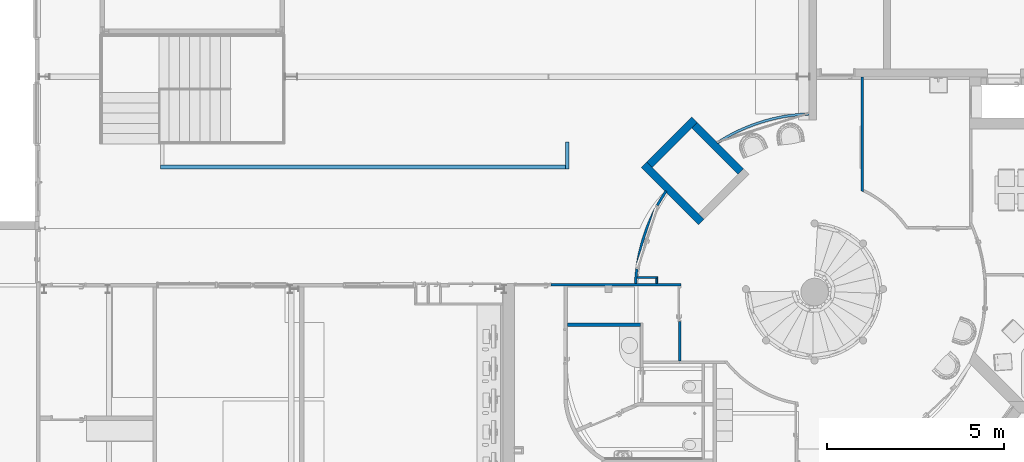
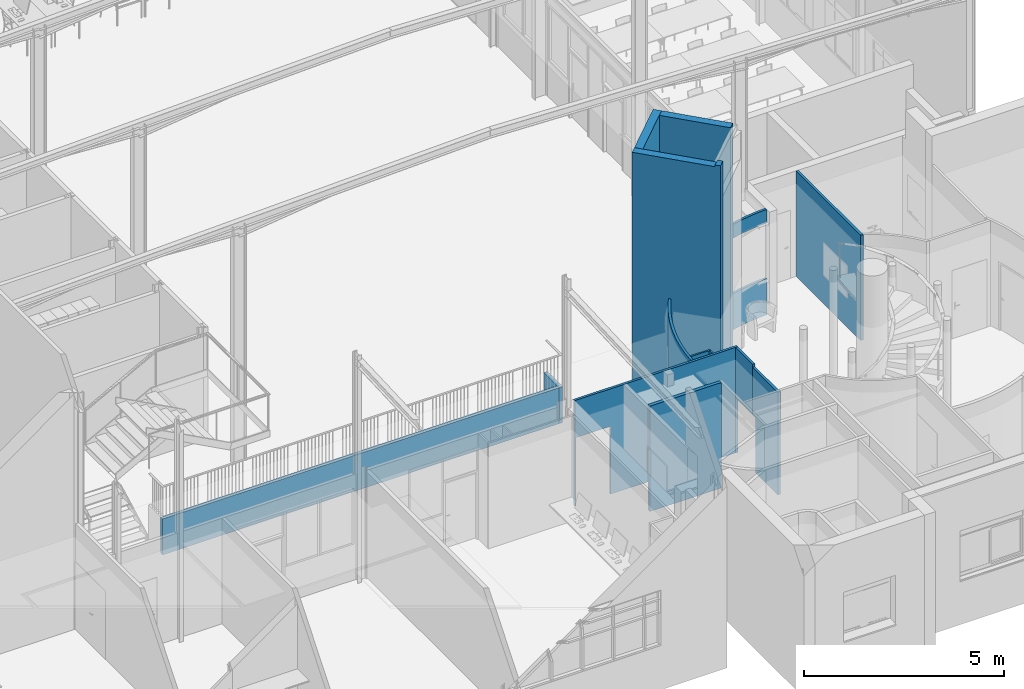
# One storey, part 47 of 137: 14 walls, 5 openings.
"""IFC2X3 building model written with IfcOpenShell, lengths in centimetres."""

from ifc_helpers import new_model, entity, si_unit, converted_unit, derived_unit, direction, frame, frame_2d, origin, place, context, subcontext, project, spatial, polyline, circle_curve, parameter, trimmed, segment, composite_curve, rectangle, outline, extrude, clip, bounded_halfspace, material, layer, layer_set, layer_usage, type_object, element, save


model = new_model("IFC2X3")

# Units and contexts
model_context = context("Model", 3, precision=0.001, world=origin(), true_north=direction((6.12303176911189e-17, 1.0)))
body_context = subcontext(model_context, "Body", "Model", "MODEL_VIEW")
ifc_project = project(units=[si_unit("LENGTHUNIT", "METRE", prefix="CENTI"), si_unit("AREAUNIT", "SQUARE_METRE"), si_unit("VOLUMEUNIT", "CUBIC_METRE"), converted_unit("PLANEANGLEUNIT", "DEGREE", entity("IfcRatioMeasure", 0.0174532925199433), si_unit("PLANEANGLEUNIT", "RADIAN"), dimensions=[0, 0, 0, 0, 0, 0, 0]), si_unit("MASSUNIT", "GRAM", prefix="KILO"), si_unit("TIMEUNIT", "SECOND"), si_unit("FREQUENCYUNIT", "HERTZ"), si_unit("THERMODYNAMICTEMPERATUREUNIT", "DEGREE_CELSIUS"), derived_unit("THERMALTRANSMITTANCEUNIT", [(si_unit("MASSUNIT", "GRAM", prefix="KILO"), 1), (si_unit("THERMODYNAMICTEMPERATUREUNIT", "KELVIN"), -1), (si_unit("TIMEUNIT", "SECOND"), -3)]), derived_unit("VOLUMETRICFLOWRATEUNIT", [(si_unit("LENGTHUNIT", "METRE"), 3), (si_unit("TIMEUNIT", "SECOND"), -1)]), si_unit("ELECTRICCURRENTUNIT", "AMPERE"), si_unit("ELECTRICVOLTAGEUNIT", "VOLT"), si_unit("POWERUNIT", "WATT"), si_unit("FORCEUNIT", "NEWTON", prefix="KILO"), si_unit("ILLUMINANCEUNIT", "LUX"), si_unit("LUMINOUSFLUXUNIT", "LUMEN"), si_unit("LUMINOUSINTENSITYUNIT", "CANDELA"), derived_unit("USERDEFINED", [(si_unit("MASSUNIT", "GRAM", prefix="KILO"), -1), (si_unit("LENGTHUNIT", "METRE"), -2), (si_unit("TIMEUNIT", "SECOND"), 3), (si_unit("LUMINOUSFLUXUNIT", "LUMEN"), 1)]), derived_unit("LINEARVELOCITYUNIT", [(si_unit("LENGTHUNIT", "METRE"), 1), (si_unit("TIMEUNIT", "SECOND"), -1)]), si_unit("PRESSUREUNIT", "PASCAL"), derived_unit("USERDEFINED", [(si_unit("LENGTHUNIT", "METRE"), -2), (si_unit("MASSUNIT", "GRAM", prefix="KILO"), 1), (si_unit("TIMEUNIT", "SECOND"), -2)])], contexts=[model_context])

# Site, building, storey
site_placement = place(None, frame((8.62739174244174, -249.285249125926, 0.0)))
site = spatial("IfcSite", under=ifc_project, at=site_placement, Name="Default", CompositionType="ELEMENT")
building_placement = place(site_placement, origin())
building = spatial("IfcBuilding", under=site, at=building_placement, CompositionType="ELEMENT")
storey_placement = place(building_placement, origin())
storey = spatial("IfcBuildingStorey", under=building, at=storey_placement, Name="RDC", CompositionType="ELEMENT", Elevation=-8.82465566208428e-11)

# Wall
ifc_material_1 = material(Name="Plâtre EXISTANT")
ifc_layer_1 = layer(ifc_material_1, 7.0)
ifc_layer_set_1 = layer_set([ifc_layer_1], Name="Mur de base:PLA EXISTANT 7")
ifc_layer_usage_1 = layer_usage(ifc_layer_set_1, "AXIS2", "NEGATIVE", 3.5)
wall_type_1 = type_object("IfcWallType", Name="Mur de base:PLA EXISTANT 7", PredefinedType="STANDARD", material=ifc_layer_set_1)
wall_1_placement = place(storey_placement, frame((3178.40482780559, 1361.98020807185, 0.0), z_axis=(0.0, 0.0, 1.0), x_axis=(0.0, -1.0, 0.0)))
element("IfcWallStandardCase", 1, at=wall_1_placement, inside=storey, type_object=wall_type_1, material=ifc_layer_usage_1, Name="Mur de base:PLA EXISTANT 7", ObjectType="Mur de base:PLA EXISTANT 7", context=body_context, shape_type="Clipping", body=[
    clip(extrude(outline(composite_curve([segment(trimmed(circle_curve(frame_2d((608.369132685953, -134.646610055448), x_axis=(0.0, 1.0)), 315.00000000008), [parameter(63.9879179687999)], [parameter(65.3963669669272)], True, "PARAMETER"), False, "CONTINUOUS"), segment(polyline([(325.27813295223, 3.50000000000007), (317.509176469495, 3.50000000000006)]), True, "CONTINUOUS"), segment(polyline([(317.509176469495, 3.50000000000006), (0.0, 3.50000000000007)]), True, "CONTINUOUS"), segment(polyline([(0.0, 3.50000000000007), (0.0, -3.50000000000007)]), True, "CONTINUOUS"), segment(polyline([(0.0, -3.50000000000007), (321.968073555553, -3.50000000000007)]), True, "CONTINUOUS")], self_intersect=False)), origin(), (0.0, 0.0, 1.0), 322.000000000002), bounded_halfspace(frame((0.0, -3.50000000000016, 322.0), z_axis=(0.0, 0.0, -1.0), x_axis=(0.0, -1.0, 0.0)), True, frame((0.0, -3.50000000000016, 322.0)), polyline([(0.0, 0.0), (15.9997070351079, 0.0), (15.9997070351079, 7.0), (0.0, 7.0), (0.0, 0.0)]))),
])

# Wall, opening
ifc_layer_usage_2 = layer_usage(ifc_layer_set_1, "AXIS2", "POSITIVE", -3.5)
wall_2_placement = place(storey_placement, frame((2537.84354579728, 777.851436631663, 0.0)))
wall_2 = element("IfcWallStandardCase", 2, at=wall_2_placement, inside=storey, type_object=wall_type_1, material=ifc_layer_usage_2, Name="Mur de base:PLA EXISTANT 7", ObjectType="Mur de base:PLA EXISTANT 7", context=body_context, shape_type="SweptSolid", body=[
    extrude(outline(composite_curve([segment(trimmed(circle_curve(frame_2d((503.04621240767, -21.3719017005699), x_axis=(1.0, 0.0)), 507.000000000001), [parameter(145.861090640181)], [parameter(177.567253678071)], True, "PARAMETER"), True, "CONTINUOUS"), segment(polyline([(-3.49684556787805, 0.148563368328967), (3.50955751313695, 0.148563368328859)]), True, "CONTINUOUS"), segment(polyline([(3.50955751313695, 0.14856336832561), (3.86055669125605, 7.15319474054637)]), True, "CONTINUOUS"), segment(polyline([(3.86055669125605, 7.15319474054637), (4.30984132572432, 14.1523090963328)]), True, "CONTINUOUS"), segment(polyline([(4.30984132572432, 14.1523090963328), (4.49402175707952, 16.6506336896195)]), True, "CONTINUOUS"), segment(polyline([(4.49402175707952, 16.6506336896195), (4.6910426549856, 19.1509654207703)]), True, "CONTINUOUS"), segment(polyline([(4.6910426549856, 19.1509654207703), (7.13166242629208, 42.4149238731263)]), True, "CONTINUOUS"), segment(polyline([(7.13166242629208, 42.4149238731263), (10.6580216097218, 65.5410982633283)]), True, "CONTINUOUS"), segment(polyline([(10.6580216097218, 65.5410982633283), (15.2622207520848, 88.4769830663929)]), True, "CONTINUOUS"), segment(polyline([(15.2622207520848, 88.4769830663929), (20.9341817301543, 111.17239231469)]), True, "CONTINUOUS"), segment(polyline([(20.9341817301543, 111.17239231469), (27.6614928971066, 133.577665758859)]), True, "CONTINUOUS"), segment(polyline([(27.6614928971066, 133.577665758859), (35.4294361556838, 155.643777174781)]), True, "CONTINUOUS"), segment(polyline([(35.4294361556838, 155.643777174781), (44.2210190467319, 177.322441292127)]), True, "CONTINUOUS"), segment(polyline([(44.2210190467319, 177.322441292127), (54.0170117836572, 198.566219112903)]), True, "CONTINUOUS"), segment(polyline([(54.0170117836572, 198.566219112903), (64.795989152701, 219.328621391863)]), True, "CONTINUOUS"), segment(polyline([(64.795989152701, 219.328621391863), (76.5343406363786, 239.564150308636)]), True, "CONTINUOUS"), segment(polyline([(76.5343406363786, 239.564150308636), (89.2065045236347, 259.228697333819)]), True, "CONTINUOUS"), segment(polyline([(89.2065045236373, 259.228697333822), (83.4127486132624, 263.157105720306)]), True, "CONTINUOUS")], self_intersect=False)), origin(), (0.0, 0.0, 1.0), 322.000000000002),
])
opening_1_placement = place(wall_2_placement, frame((41.8345070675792, 28.4686335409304, 0.0)))
element("IfcOpeningElement", 3, at=opening_1_placement, cuts=wall_2, Name="Double(R)_bois_Existant_mu:183 x 204 cm:1", ObjectType="Opening", context=body_context, shape_type="SweptSolid", body=[
    extrude(rectangle(XDim=206.999999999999, YDim=189.0, at=frame_2d((103.499999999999, 94.5), x_axis=(1.0, 0.0))), frame((0.0, 0.0, 0.0), z_axis=(-0.951478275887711, 0.307715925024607, 0.0), x_axis=(0.0, 0.0, 1.0)), (0.0, 0.0, 1.0), 45.5719508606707),
])

ifc_layer_usage_3 = layer_usage(ifc_layer_set_1, "AXIS2", "NEGATIVE", 3.5)
wall_3_placement = place(storey_placement, frame((2194.90482780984, 774.499999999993, 0.0)))
wall_3 = element("IfcWallStandardCase", 4, at=wall_3_placement, inside=storey, type_object=wall_type_1, material=ifc_layer_usage_3, Name="Mur de base:PLA EXISTANT 7", ObjectType="Mur de base:PLA EXISTANT 7", context=body_context, shape_type="SweptSolid", body=[
    extrude(rectangle(XDim=470.999999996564, YDim=6.99999999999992, at=frame_2d((235.499999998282, 0.0), x_axis=(-1.0, 0.0))), origin(), (0.0, 0.0, 1.0), 322.000000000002),
])
opening_2_placement = place(wall_3_placement, frame((103.499999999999, 3.49999999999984, 0.0)))
element("IfcOpeningElement", 5, at=opening_2_placement, cuts=wall_3, Name="Simple(R)_bois_mu:93 x 204 cm:1", ObjectType="Opening", context=body_context, shape_type="SweptSolid", body=[
    extrude(rectangle(XDim=207.499999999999, YDim=99.9999999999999, at=frame_2d((103.749999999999, 50.0), x_axis=(1.0, 0.0))), frame((0.0, 0.0, 0.0), z_axis=(0.0, -1.0, 0.0), x_axis=(0.0, 0.0, 1.0)), (0.0, 0.0, 1.0), 7.0),
])

ifc_layer_usage_4 = layer_usage(ifc_layer_set_1, "AXIS2", "NEGATIVE", 3.5)
wall_4_placement = place(storey_placement, frame((2662.40482780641, 771.0, 0.0), z_axis=(0.0, 0.0, 1.0), x_axis=(0.0, -1.0, 0.0)))
wall_4 = element("IfcWallStandardCase", 6, at=wall_4_placement, inside=storey, type_object=wall_type_1, material=ifc_layer_usage_4, Name="Mur de base:PLA EXISTANT 7", ObjectType="Mur de base:PLA EXISTANT 7", context=body_context, shape_type="Clipping", body=[
    clip(extrude(rectangle(XDim=85.0197919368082, YDim=7.00000000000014, at=frame_2d((42.5098959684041, 0.0), x_axis=(-1.0, 0.0))), origin(), (0.0, 0.0, 1.0), 322.000000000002), bounded_halfspace(frame((0.0, -3.50000000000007, 322.0), z_axis=(0.0, 0.0, -1.0), x_axis=(-1.0, 0.0, 0.0)), True, frame((0.0, -3.50000000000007, 322.0)), polyline([(0.0, 0.0), (85.0197919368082, 0.0), (85.0197919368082, 7.0), (0.0, 7.0), (0.0, 0.0)]))),
])
opening_3_placement = place(wall_4_placement, frame((101.0, 3.5, 0.0)))
element("IfcOpeningElement", 7, at=opening_3_placement, cuts=wall_4, Name="Simple(R)_bois_mu:93 x 165 cm:1", ObjectType="Opening", context=body_context, shape_type="SweptSolid", body=[
    extrude(rectangle(XDim=168.5, YDim=99.9999999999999, at=frame_2d((84.25, 50.0), x_axis=(1.0, 0.0))), frame((0.0, 0.0, 0.0), z_axis=(0.0, -1.0, 0.0), x_axis=(0.0, 0.0, 1.0)), (0.0, 0.0, 1.0), 7.0),
])

ifc_layer_usage_5 = layer_usage(ifc_layer_set_1, "AXIS2", "POSITIVE", -3.5)
wall_5_placement = place(storey_placement, frame((2768.54701546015, 1175.24011154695, 0.0)))
wall_5 = element("IfcWallStandardCase", 8, at=wall_5_placement, inside=storey, type_object=wall_type_1, material=ifc_layer_usage_5, Name="Mur de base:PLA EXISTANT 7", ObjectType="Mur de base:PLA EXISTANT 7", context=body_context, shape_type="Clipping", body=[
    clip(extrude(outline(composite_curve([segment(polyline([(-1.91308680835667, 2.93088704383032), (1.91308680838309, -2.93088704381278)]), True, "CONTINUOUS"), segment(trimmed(circle_curve(frame_2d((275.211202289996, -421.629036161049), x_axis=(1.0, 0.0)), 500.000000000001), [parameter(91.8169691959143)], [parameter(123.133812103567)], True, "PARAMETER"), False, "CONTINUOUS"), segment(polyline([(259.35781234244, 78.1195706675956), (259.35781234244, 85.1230432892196)]), True, "CONTINUOUS"), segment(trimmed(circle_curve(frame_2d((275.211202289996, -421.629036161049), x_axis=(1.0, 0.0)), 507.000000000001), [parameter(91.7918745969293)], [parameter(123.133812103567)], True, "PARAMETER"), True, "CONTINUOUS")], self_intersect=False)), origin(), (0.0, 0.0, 1.0), 322.000000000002), bounded_halfspace(frame((3.47701850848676, -1.9142123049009, 322.0), z_axis=(0.0, 0.0, -1.0), x_axis=(-1.0, 0.0, 0.0)), True, frame((3.47701850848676, -1.9142123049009, 322.0)), composite_curve([segment(trimmed(circle_curve(frame_2d((8282.45792166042, -12792.9078311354), x_axis=(1.0, 0.0)), 500.000000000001), [parameter(92.7165790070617)], [parameter(122.920059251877)], True, "PARAMETER"), False, "CONTINUOUS"), segment(polyline([(7560.15071853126, 2429.96549502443), (7560.15071857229, 2643.56221852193)]), True, "CONTINUOUS"), segment(trimmed(circle_curve(frame_2d((8282.45792166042, -12792.9078311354), x_axis=(1.0, 0.0)), 507.000000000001), [parameter(92.6790444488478)], [parameter(123.089306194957)], True, "PARAMETER"), True, "CONTINUOUS"), segment(polyline([(-154.235943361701, 154.235943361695), (0.0, 0.0)]), True, "CONTINUOUS")], self_intersect=False))),
])
opening_4_placement = place(wall_5_placement, origin())
element("IfcOpeningElement", 9, at=opening_4_placement, cuts=wall_5, Name="Mur de base:PLA EXISTANT 7", ObjectType="Opening", context=body_context, shape_type="SweptSolid", body=[
    extrude(outline(composite_curve([segment(polyline([(-55.4473061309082, -130.899588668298), (-17.9673061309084, -130.899588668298)]), True, "CONTINUOUS"), segment(trimmed(circle_curve(frame_2d((466.792693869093, -130.899588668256), x_axis=(0.546596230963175, 0.837396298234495)), 484.760000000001), [parameter(91.8043346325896)], [parameter(123.133812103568)], True, "PARAMETER"), False, "CONTINUOUS"), segment(polyline([(52.7148536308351, 121.155563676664), (20.6997586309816, 140.643613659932)]), True, "CONTINUOUS"), segment(trimmed(circle_curve(frame_2d((466.792693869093, -130.899588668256), x_axis=(0.546596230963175, 0.837396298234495)), 522.240000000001), [parameter(91.8043346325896)], [parameter(123.133812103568)], True, "PARAMETER"), True, "CONTINUOUS")], self_intersect=False)), frame((129.678906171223, 40.8106595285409, 110.0), z_axis=(0.0, 0.0, 1.0), x_axis=(0.54659623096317, -0.837396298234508, 0.0)), (0.0, 0.0, 1.0), 170.0),
])

# Walls
ifc_material_2 = material(Name="Plâtre")
ifc_layer_2 = layer(ifc_material_2, 2.0)
ifc_material_3 = material(Name="Maçonnerie")
ifc_layer_3 = layer(ifc_material_3, 20.0)
ifc_layer_set_2 = layer_set([ifc_layer_2, ifc_layer_3], Name="Mur de base:PLA 2 + PAR 20")
ifc_layer_usage_6 = layer_usage(ifc_layer_set_2, "AXIS2", "NEGATIVE", 11.0)
wall_type_2 = type_object("IfcWallType", Name="Mur de base:PLA 2 + PAR 20", PredefinedType="STANDARD", material=ifc_layer_set_2)
wall_6_placement = place(storey_placement, frame((2723.4210995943, 951.738662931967, 0.0), z_axis=(0.0, 0.0, 1.0), x_axis=(-0.707106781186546, 0.707106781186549, 0.0)))
element("IfcWallStandardCase", 10, at=wall_6_placement, inside=storey, type_object=wall_type_2, material=ifc_layer_usage_6, Name="Mur de base:PLA 2 + PAR 20", ObjectType="Mur de base:PLA 2 + PAR 20", context=body_context, shape_type="Clipping", body=[
    clip(extrude(rectangle(XDim=229.000000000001, YDim=21.9999999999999, at=frame_2d((114.500000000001, 1.94511073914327e-13), x_axis=(-1.0, 0.0))), origin(), (0.0, 0.0, 1.0), 751.919804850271), bounded_halfspace(frame((14.2782119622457, -11.0, 746.074501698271), z_axis=(-0.0246776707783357, -0.0246776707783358, 0.999390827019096), x_axis=(0.707106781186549, -0.707106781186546, 0.0)), False, frame((14.2782119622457, -11.0, 746.074501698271)), polyline([(0.0, 0.0), (192.721788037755, 0.0), (214.721788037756, 0.0), (214.721788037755, 22.0), (-0.202626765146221, 22.0), (0.28285059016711, 20.7352882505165), (0.0, 0.0)]))),
])
ifc_layer_usage_7 = layer_usage(ifc_layer_set_2, "AXIS2", "NEGATIVE", 11.0)
wall_7_placement = place(storey_placement, frame((2577.04999588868, 1113.66611582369, 0.0), z_axis=(0.0, 0.0, 1.0), x_axis=(0.707106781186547, 0.707106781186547, 0.0)))
element("IfcWallStandardCase", 11, at=wall_7_placement, inside=storey, type_object=wall_type_2, material=ifc_layer_usage_7, Name="Mur de base:PLA 2 + PAR 20", ObjectType="Mur de base:PLA 2 + PAR 20", context=body_context, shape_type="Clipping", body=[
    clip(extrude(rectangle(XDim=180.000000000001, YDim=22.0000000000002, at=frame_2d((90.0000000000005, 7.72715225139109e-14), x_axis=(-1.0, 0.0))), origin(), (0.0, 0.0, 1.0), 751.37656516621), bounded_halfspace(frame((0.0, -11.0, 750.833325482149), z_axis=(0.0246776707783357, -0.0246776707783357, 0.999390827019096), x_axis=(0.707106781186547, 0.707106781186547, 0.0)), False, frame((0.0, -11.0, 750.833325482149)), polyline([(0.0, 0.0), (158.0, 0.0), (180.0, 0.0), (180.0, 22.0), (0.0, 22.0), (0.0, 0.0)]))),
])
ifc_layer_usage_8 = layer_usage(ifc_layer_set_2, "AXIS2", "NEGATIVE", 11.0)
wall_8_placement = place(storey_placement, frame((2704.32921650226, 1225.38898725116, 0.0), z_axis=(0.0, 0.0, 1.0), x_axis=(0.707106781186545, -0.70710678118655, 0.0)))
element("IfcWallStandardCase", 12, at=wall_8_placement, inside=storey, type_object=wall_type_2, material=ifc_layer_usage_8, Name="Mur de base:PLA 2 + PAR 20", ObjectType="Mur de base:PLA 2 + PAR 20", context=body_context, shape_type="Clipping", body=[
    clip(extrude(rectangle(XDim=185.000000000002, YDim=21.9999999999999, at=frame_2d((92.5000000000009, 2.47801779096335e-13), x_axis=(-1.0, 0.0))), origin(), (0.0, 0.0, 1.0), 746.931876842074), bounded_halfspace(frame((0.0, -11.0, 746.931876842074), z_axis=(0.0246776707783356, 0.0246776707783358, 0.999390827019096), x_axis=(-0.70710678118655, 0.707106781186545, 0.0)), False, frame((0.0, -11.0, 746.931876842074)), polyline([(0.0, 0.0), (187.234893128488, 0.0), (195.679901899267, 22.0), (0.0, 22.0), (0.0, 0.0)]))),
])
ifc_layer_4 = layer(ifc_material_2, 10.0)
ifc_layer_set_3 = layer_set([ifc_layer_4], Name="Mur de base:PLA 10")
ifc_layer_usage_9 = layer_usage(ifc_layer_set_3, "AXIS2", "NEGATIVE", 5.0)
wall_type_3 = type_object("IfcWallType", Name="Mur de base:PLA 10", PredefinedType="STANDARD", material=ifc_layer_set_3)
wall_9_placement = place(storey_placement, frame((2551.90482781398, 661.128568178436, 0.0), z_axis=(0.0, 0.0, 1.0), x_axis=(-1.0, 0.0, 0.0)))
element("IfcWallStandardCase", 13, at=wall_9_placement, inside=storey, type_object=wall_type_3, material=ifc_layer_usage_9, Name="Mur de base:PLA 10", ObjectType="Mur de base:PLA 10", context=body_context, shape_type="SweptSolid", body=[
    extrude(rectangle(XDim=207.000000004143, YDim=9.99999999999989, at=frame_2d((103.500000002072, -1.06581410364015e-14), x_axis=(-1.0, 0.0))), origin(), (0.0, 0.0, 1.0), 322.000000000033),
])

# Wall, opening
ifc_layer_5 = layer(ifc_material_2, 7.0)
ifc_layer_set_4 = layer_set([ifc_layer_5], Name="Mur de base:PLA 7")
ifc_layer_usage_10 = layer_usage(ifc_layer_set_4, "AXIS2", "NEGATIVE", 3.5)
wall_type_4 = type_object("IfcWallType", Name="Mur de base:PLA 7", PredefinedType="STANDARD", material=ifc_layer_set_4)
wall_10_placement = place(storey_placement, frame((2662.40482780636, 685.980208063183, 0.0), z_axis=(0.0, 0.0, 1.0), x_axis=(0.0, -1.0, 0.0)))
wall_10 = element("IfcWallStandardCase", 14, at=wall_10_placement, inside=storey, type_object=wall_type_4, material=ifc_layer_usage_10, Name="Mur de base:PLA 7", ObjectType="Mur de base:PLA 7", context=body_context, shape_type="SweptSolid", body=[
    extrude(rectangle(XDim=126.999999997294, YDim=7.00000000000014, at=frame_2d((63.4999999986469, 0.0), x_axis=(-1.0, 0.0))), origin(), (0.0, 0.0, 1.0), 313.000000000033),
])
opening_5_placement = place(wall_10_placement, origin())
element("IfcOpeningElement", 15, at=opening_5_placement, cuts=wall_10, Name="Mur de base:PLA 7", ObjectType="Opening", context=body_context, shape_type="SweptSolid", body=[
    extrude(rectangle(XDim=168.5, YDim=100.0, at=frame_2d((7.105427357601e-15, 1.10134124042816e-13), x_axis=(1.0, 0.0))), frame((-34.0197919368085, -155.899999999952, 84.25), z_axis=(0.0, 1.0, 0.0), x_axis=(0.0, 0.0, 1.0)), (0.0, 0.0, 1.0), 304.8),
])

# Walls
ifc_layer_6 = layer(ifc_material_1, 5.0)
ifc_layer_set_5 = layer_set([ifc_layer_6], Name="Mur de base:PLA EXISTANT 5")
ifc_layer_usage_11 = layer_usage(ifc_layer_set_5, "AXIS2", "NEGATIVE", 2.5)
wall_type_5 = type_object("IfcWallType", Name="Mur de base:PLA EXISTANT 5", PredefinedType="STANDARD", material=ifc_layer_set_5)
wall_11_placement = place(storey_placement, frame((2542.15305756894, 794.499999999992, 0.0)))
element("IfcWallStandardCase", 16, at=wall_11_placement, inside=storey, type_object=wall_type_5, material=ifc_layer_usage_11, Name="Mur de base:PLA EXISTANT 5", ObjectType="Mur de base:PLA EXISTANT 5", context=body_context, shape_type="Clipping", body=[
    clip(extrude(outline(composite_curve([segment(polyline([(57.7517702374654, -2.49999999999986), (57.7517702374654, 2.50000000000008)]), True, "CONTINUOUS"), segment(polyline([(57.7517702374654, 2.50000000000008), (0.381313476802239, 2.49999999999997)]), True, "CONTINUOUS"), segment(trimmed(circle_curve(frame_2d((498.736700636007, -38.0204650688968), x_axis=(1.0, 0.0)), 500.000000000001), [parameter(175.351599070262)], [parameter(175.92622301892)], True, "PARAMETER"), True, "CONTINUOUS"), segment(polyline([(0.0, -2.49999999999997), (52.7517702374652, -2.49999999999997)]), True, "CONTINUOUS"), segment(polyline([(52.7517702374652, -2.49999999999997), (57.7517702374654, -2.49999999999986)]), True, "CONTINUOUS")], self_intersect=False)), origin(), (0.0, 0.0, 1.0), 322.000000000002), bounded_halfspace(frame((0.0, -2.49999999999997, 322.0), z_axis=(0.0, 0.0, -1.0), x_axis=(-1.0, 0.0, 0.0)), True, frame((0.0, -2.49999999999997, 322.0)), composite_curve([segment(polyline([(0.0, 0.0), (1607.87395683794, 0.0)]), True, "CONTINUOUS"), segment(polyline([(1607.87395683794, 0.0), (1760.27395683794, 0.0)]), True, "CONTINUOUS"), segment(polyline([(1760.27395683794, 0.0), (1760.27395683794, 152.400000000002)]), True, "CONTINUOUS"), segment(polyline([(1760.27395683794, 152.400000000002), (11.6224347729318, 152.399999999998)]), True, "CONTINUOUS"), segment(trimmed(circle_curve(frame_2d((15201.4946353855, -1082.66377529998), x_axis=(1.0, 0.0)), 500.000000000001), [parameter(175.351599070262)], [parameter(175.92622301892)], True, "PARAMETER"), True, "CONTINUOUS")], self_intersect=False))),
])
ifc_layer_usage_12 = layer_usage(ifc_layer_set_5, "AXIS2", "NEGATIVE", 2.5)
wall_12_placement = place(storey_placement, frame((2597.40482780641, 792.0, 0.0), z_axis=(0.0, 0.0, 1.0), x_axis=(0.0, -1.0, 0.0)))
element("IfcWallStandardCase", 17, at=wall_12_placement, inside=storey, type_object=wall_type_5, material=ifc_layer_usage_12, Name="Mur de base:PLA EXISTANT 5", ObjectType="Mur de base:PLA EXISTANT 5", context=body_context, shape_type="Clipping", body=[
    clip(extrude(rectangle(XDim=14.0000000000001, YDim=4.99999999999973, at=frame_2d((7.00000000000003, 0.0), x_axis=(-1.0, 0.0))), origin(), (0.0, 0.0, 1.0), 322.000000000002), bounded_halfspace(frame((0.0, -2.5000000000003, 322.0), z_axis=(0.0, 0.0, -1.0), x_axis=(0.0, -1.0, 0.0)), True, frame((0.0, -2.5000000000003, 322.0)), polyline([(0.0, 0.0), (13.4302157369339, 0.0), (13.4302157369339, 5.0), (0.0, 5.0), (0.0, 0.0)]))),
])
ifc_material_4 = material(Name="Mur par défaut")
ifc_layer_7 = layer(ifc_material_4, 10.0)
ifc_layer_set_6 = layer_set([ifc_layer_7], Name="Mur de base:Int. PLA 10cm_MU")
ifc_layer_usage_13 = layer_usage(ifc_layer_set_6, "AXIS2", "NEGATIVE", 5.0)
wall_type_6 = type_object("IfcWallType", Name="Mur de base:Int. PLA 10cm_MU", PredefinedType="STANDARD", material=ifc_layer_set_6)
wall_13_placement = place(storey_placement, frame((2344.90311868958, 1177.48020806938, 0.0), z_axis=(0.0, 0.0, 1.0), x_axis=(0.0, -1.0, 0.0)))
element("IfcWallStandardCase", 18, at=wall_13_placement, inside=storey, type_object=wall_type_6, material=ifc_layer_usage_13, Name="Mur de base:Int. PLA 10cm_MU", ObjectType="Mur de base:Int. PLA 10cm_MU", context=body_context, shape_type="SweptSolid", body=[
    extrude(rectangle(XDim=75.4999999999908, YDim=10.0000000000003, at=frame_2d((37.7499999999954, 0.0), x_axis=(-1.0, 0.0))), origin(), (0.0, 0.0, 1.0), 110.0),
])
ifc_layer_usage_14 = layer_usage(ifc_layer_set_6, "AXIS2", "NEGATIVE", 5.0)
wall_14_placement = place(storey_placement, frame((2339.90311868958, 1106.98020806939, 0.0), z_axis=(0.0, 0.0, 1.0), x_axis=(-1.0, 0.0, 0.0)))
element("IfcWallStandardCase", 19, at=wall_14_placement, inside=storey, type_object=wall_type_6, material=ifc_layer_usage_14, Name="Mur de base:Int. PLA 10cm_MU", ObjectType="Mur de base:Int. PLA 10cm_MU", context=body_context, shape_type="SweptSolid", body=[
    extrude(rectangle(XDim=1145.0, YDim=9.99999999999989, at=frame_2d((572.499999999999, -4.44089209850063e-16), x_axis=(-1.0, 0.0))), origin(), (0.0, 0.0, 1.0), 110.0),
])

save(model, "model.ifc")
